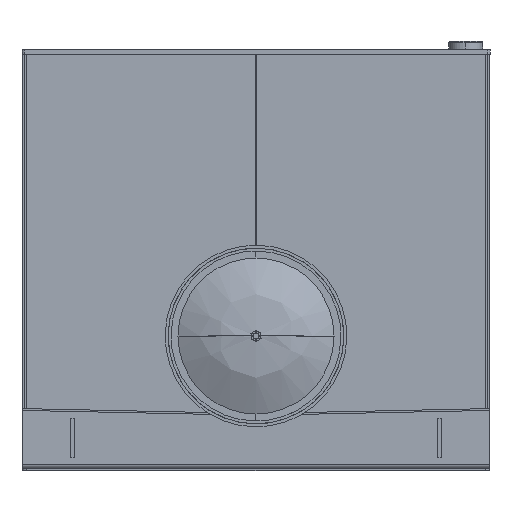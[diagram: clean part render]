
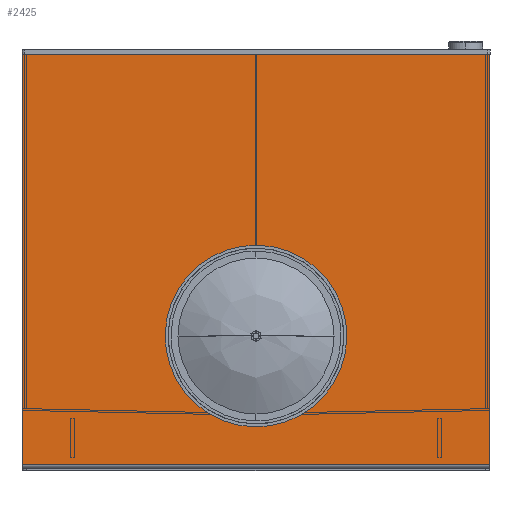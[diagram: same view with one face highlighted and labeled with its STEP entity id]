
A CAD part, top view. The second image highlights one B-rep face of the part: STEP entity #2425.
In plain terms, the highlighted planar face has unit normal (0, 0, 1) as drawn and (-1, 0, 0) by its records, which use the part's own axes.
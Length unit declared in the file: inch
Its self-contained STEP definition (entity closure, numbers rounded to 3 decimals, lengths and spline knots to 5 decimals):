
#39 = CARTESIAN_POINT ( 'NONE',  ( -0.375, 13.255, 24. ) ) ;
#123 = DIRECTION ( 'NONE',  ( 0., 0., 1. ) ) ;
#135 = CARTESIAN_POINT ( 'NONE',  ( -0.375, 42.125, 0. ) ) ;
#170 = VERTEX_POINT ( 'NONE', #6516 ) ;
#297 = VECTOR ( 'NONE', #6245, 39.37008 ) ;
#301 = VERTEX_POINT ( 'NONE', #1183 ) ;
#973 = CARTESIAN_POINT ( 'NONE',  ( -0.375, 42.125, 48. ) ) ;
#1133 = EDGE_CURVE ( 'NONE', #8335, #4629, #5850, .T. ) ;
#1183 = CARTESIAN_POINT ( 'NONE',  ( -0.375, 42.125, 48. ) ) ;
#1211 = VECTOR ( 'NONE', #3341, 39.37008 ) ;
#1257 = AXIS2_PLACEMENT_3D ( 'NONE', #39, #3547, #123 ) ;
#1265 = CIRCLE ( 'NONE', #4128, 8. ) ;
#1415 = LINE ( 'NONE', #3579, #4883 ) ;
#1468 = EDGE_CURVE ( 'NONE', #4838, #170, #7855, .T. ) ;
#1673 = DIRECTION ( 'NONE',  ( 1., 0., 0. ) ) ;
#2372 = CARTESIAN_POINT ( 'NONE',  ( -0.375, 13.255, 24. ) ) ;
#2425 = ADVANCED_FACE ( 'NONE', ( #4457, #7874 ), #7775, .F. ) ;
#2430 = CARTESIAN_POINT ( 'NONE',  ( -0.375, 13.255, 16. ) ) ;
#2445 = LINE ( 'NONE', #973, #297 ) ;
#3110 = EDGE_LOOP ( 'NONE', ( #8401, #3608 ) ) ;
#3151 = DIRECTION ( 'NONE',  ( 0., 0., 1. ) ) ;
#3341 = DIRECTION ( 'NONE',  ( 0., -1., 0. ) ) ;
#3547 = DIRECTION ( 'NONE',  ( -1., 0., 0. ) ) ;
#3579 = CARTESIAN_POINT ( 'NONE',  ( -0.375, 0.125, 48. ) ) ;
#3608 = ORIENTED_EDGE ( 'NONE', *, *, #1133, .F. ) ;
#3672 = ORIENTED_EDGE ( 'NONE', *, *, #1468, .T. ) ;
#3673 = EDGE_CURVE ( 'NONE', #3703, #170, #1415, .T. ) ;
#3699 = CARTESIAN_POINT ( 'NONE',  ( -0.375, 0.125, 48. ) ) ;
#3703 = VERTEX_POINT ( 'NONE', #3699 ) ;
#4128 = AXIS2_PLACEMENT_3D ( 'NONE', #2372, #7271, #3151 ) ;
#4457 = FACE_BOUND ( 'NONE', #3110, .T. ) ;
#4629 = VERTEX_POINT ( 'NONE', #5468 ) ;
#4838 = VERTEX_POINT ( 'NONE', #135 ) ;
#4877 = CARTESIAN_POINT ( 'NONE',  ( -0.375, 0., 48. ) ) ;
#4883 = VECTOR ( 'NONE', #6396, 39.37008 ) ;
#5465 = EDGE_CURVE ( 'NONE', #301, #3703, #6974, .T. ) ;
#5468 = CARTESIAN_POINT ( 'NONE',  ( -0.375, 13.255, 32. ) ) ;
#5487 = AXIS2_PLACEMENT_3D ( 'NONE', #7182, #1673, #7092 ) ;
#5501 = EDGE_CURVE ( 'NONE', #301, #4838, #2445, .T. ) ;
#5507 = DIRECTION ( 'NONE',  ( 0., -1., 0. ) ) ;
#5850 = CIRCLE ( 'NONE', #1257, 8. ) ;
#5852 = ORIENTED_EDGE ( 'NONE', *, *, #5501, .T. ) ;
#5931 = ORIENTED_EDGE ( 'NONE', *, *, #5465, .F. ) ;
#6132 = EDGE_CURVE ( 'NONE', #4629, #8335, #1265, .T. ) ;
#6245 = DIRECTION ( 'NONE',  ( 0., 0., -1. ) ) ;
#6396 = DIRECTION ( 'NONE',  ( 0., 0., -1. ) ) ;
#6516 = CARTESIAN_POINT ( 'NONE',  ( -0.375, 0.125, 0. ) ) ;
#6974 = LINE ( 'NONE', #4877, #8022 ) ;
#7092 = DIRECTION ( 'NONE',  ( 0., 0., -1. ) ) ;
#7182 = CARTESIAN_POINT ( 'NONE',  ( -0.375, 0., 48. ) ) ;
#7271 = DIRECTION ( 'NONE',  ( -1., 0., 0. ) ) ;
#7356 = EDGE_LOOP ( 'NONE', ( #3672, #8394, #5931, #5852 ) ) ;
#7775 = PLANE ( 'NONE',  #5487 ) ;
#7855 = LINE ( 'NONE', #8098, #1211 ) ;
#7874 = FACE_OUTER_BOUND ( 'NONE', #7356, .T. ) ;
#8022 = VECTOR ( 'NONE', #5507, 39.37008 ) ;
#8098 = CARTESIAN_POINT ( 'NONE',  ( -0.375, 0., 0. ) ) ;
#8335 = VERTEX_POINT ( 'NONE', #2430 ) ;
#8394 = ORIENTED_EDGE ( 'NONE', *, *, #3673, .F. ) ;
#8401 = ORIENTED_EDGE ( 'NONE', *, *, #6132, .F. ) ;
